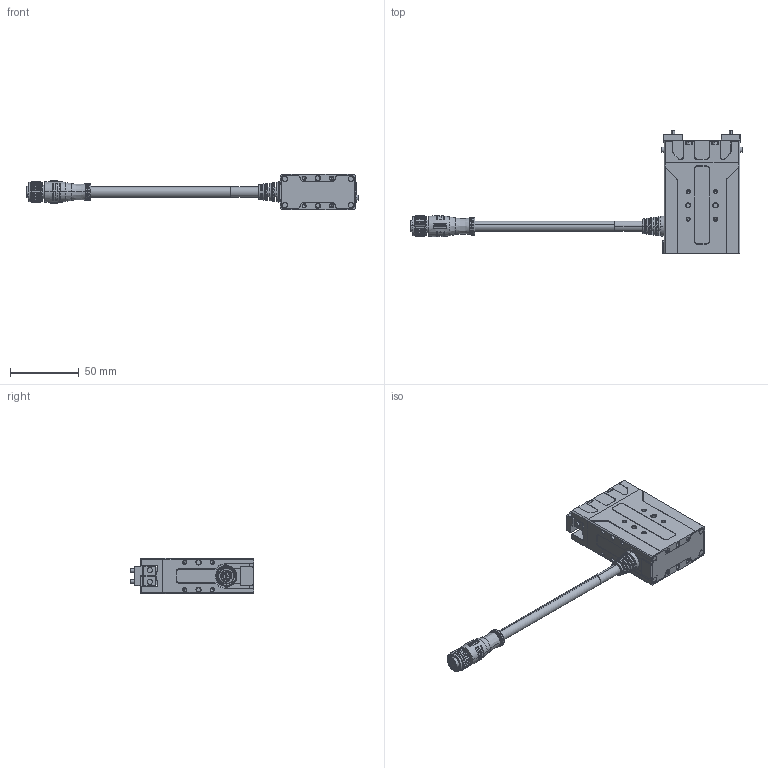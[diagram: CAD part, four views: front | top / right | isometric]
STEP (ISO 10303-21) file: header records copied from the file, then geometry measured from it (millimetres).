
FILE_DESCRIPTION (( 'STEP AP214' ), '1' );
FILE_NAME ('PGE-15-26-O-S.STEP', '2023-07-19T03:37:52', ( '' ), ( '' ), 'SwSTEP 2.0', 'SolidWorks 2020', '' );
FILE_SCHEMA (( 'AUTOMOTIVE_DESIGN' ));
Length unit declared in the file: millimetre
Products named in the file (3): PGE5-忒硌價釱; 耜堤褲; PGE-15-26-O-S
Assembly tree (3 placements, depth 2):
  PGE-15-26-O-S
    耜堤褲
    PGE5-忒硌價釱  x2
Bounding box: 241.5 x 89.5 x 26 mm (x, y, z)
Volume: 8242.9 mm3; surface area: 41079.8 mm2
Topology: 4 solids, 31 shells, 1662 faces, 4135 edges, 2559 vertices
Faces by surface type: plane 673, cylinder 411, cone 300, bspline 277, sphere 1
Full cylindrical faces by diameter (mm): 11.1 x3
Entity records: 77519 total; most frequent: CARTESIAN_POINT 25990, ORIENTED_EDGE 7560, DIRECTION 6462, EDGE_CURVE 3784, VERTEX_POINT 2397, AXIS2_PLACEMENT_3D 2333, VECTOR 1796, LINE 1796
